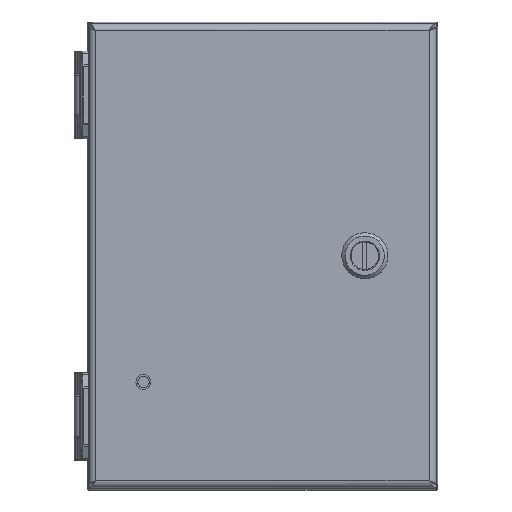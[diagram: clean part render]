
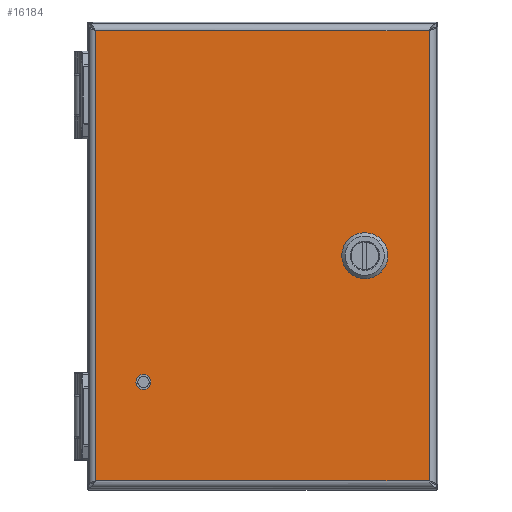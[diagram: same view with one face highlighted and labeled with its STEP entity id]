
A CAD part, top view. The second image highlights one B-rep face of the part: STEP entity #16184.
In plain terms, the highlighted planar face has unit normal (0, 0, 1).
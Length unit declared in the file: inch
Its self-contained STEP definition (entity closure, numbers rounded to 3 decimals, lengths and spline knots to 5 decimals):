
#14267=CARTESIAN_POINT('',(-2.035,-2.16,0.81));
#14268=DIRECTION('',(0.,0.,1.));
#14269=DIRECTION('',(-1.,0.,0.));
#14270=AXIS2_PLACEMENT_3D('',#14267,#14268,#14269);
#14275=CARTESIAN_POINT('',(-2.035,-2.16,0.81));
#14276=DIRECTION('',(0.,0.,1.));
#14277=DIRECTION('',(1.,0.,0.));
#14278=AXIS2_PLACEMENT_3D('',#14275,#14276,#14277);
#14283=DIRECTION('',(0.707,0.707,0.));
#14284=VECTOR('',#14283,0.30984);
#14285=CARTESIAN_POINT('',(1.44447,0.08845,0.81));
#14286=LINE('',#14285,#14284);
#14290=CARTESIAN_POINT('',(1.752,0.,0.81));
#14291=DIRECTION('',(0.,0.,1.));
#14292=DIRECTION('',(-0.961,0.276,0.));
#14293=AXIS2_PLACEMENT_3D('',#14290,#14291,#14292);
#14298=DIRECTION('',(-0.707,0.707,0.));
#14299=VECTOR('',#14298,0.30984);
#14300=CARTESIAN_POINT('',(1.66355,-0.30753,0.81));
#14301=LINE('',#14300,#14299);
#14305=CARTESIAN_POINT('',(1.752,0.,0.81));
#14306=DIRECTION('',(0.,0.,1.));
#14307=DIRECTION('',(-0.276,-0.961,0.));
#14308=AXIS2_PLACEMENT_3D('',#14305,#14306,#14307);
#14313=DIRECTION('',(-0.707,-0.707,0.));
#14314=VECTOR('',#14313,0.30984);
#14315=CARTESIAN_POINT('',(2.05953,-0.08845,0.81));
#14316=LINE('',#14315,#14314);
#14320=CARTESIAN_POINT('',(1.752,0.,0.81));
#14321=DIRECTION('',(0.,0.,1.));
#14322=DIRECTION('',(0.961,-0.276,0.));
#14323=AXIS2_PLACEMENT_3D('',#14320,#14321,#14322);
#14328=DIRECTION('',(0.707,-0.707,0.));
#14329=VECTOR('',#14328,0.30984);
#14330=CARTESIAN_POINT('',(1.84045,0.30753,0.81));
#14331=LINE('',#14330,#14329);
#14335=CARTESIAN_POINT('',(1.752,0.,0.81));
#14336=DIRECTION('',(0.,0.,1.));
#14337=DIRECTION('',(0.276,0.961,0.));
#14338=AXIS2_PLACEMENT_3D('',#14335,#14336,#14337);
#14343=DIRECTION('',(1.,0.,0.));
#14344=VECTOR('',#14343,5.7);
#14345=CARTESIAN_POINT('',(-2.85,-3.85,0.81));
#14346=LINE('',#14345,#14344);
#14441=DIRECTION('',(0.,1.,0.));
#14442=VECTOR('',#14441,7.7);
#14443=CARTESIAN_POINT('',(2.85,-3.85,0.81));
#14444=LINE('',#14443,#14442);
#14493=DIRECTION('',(-1.,0.,0.));
#14494=VECTOR('',#14493,5.7);
#14495=CARTESIAN_POINT('',(2.85,3.85,0.81));
#14496=LINE('',#14495,#14494);
#14598=DIRECTION('',(0.,-1.,0.));
#14599=VECTOR('',#14598,7.7);
#14600=CARTESIAN_POINT('',(-2.85,3.85,0.81));
#14601=LINE('',#14600,#14599);
#15913=CARTESIAN_POINT('',(-2.85,3.85,0.81));
#15914=CARTESIAN_POINT('',(-2.85,-3.85,0.81));
#15915=VERTEX_POINT('',#15913);
#15916=VERTEX_POINT('',#15914);
#15917=CARTESIAN_POINT('',(2.85,-3.85,0.81));
#15918=CARTESIAN_POINT('',(2.85,3.85,0.81));
#15919=VERTEX_POINT('',#15917);
#15920=VERTEX_POINT('',#15918);
#15985=CARTESIAN_POINT('',(-2.13305,-2.16,0.81));
#15986=CARTESIAN_POINT('',(-1.93695,-2.16,0.81));
#15987=VERTEX_POINT('',#15985);
#15988=VERTEX_POINT('',#15986);
#15993=CARTESIAN_POINT('',(1.44447,0.08845,0.81));
#15994=CARTESIAN_POINT('',(1.66355,0.30753,0.81));
#15995=VERTEX_POINT('',#15993);
#15996=VERTEX_POINT('',#15994);
#15997=CARTESIAN_POINT('',(1.84045,0.30753,0.81));
#15998=VERTEX_POINT('',#15997);
#15999=CARTESIAN_POINT('',(2.05953,0.08845,0.81));
#16000=VERTEX_POINT('',#15999);
#16001=CARTESIAN_POINT('',(2.05953,-0.08845,0.81));
#16002=VERTEX_POINT('',#16001);
#16003=CARTESIAN_POINT('',(1.84045,-0.30753,0.81));
#16004=VERTEX_POINT('',#16003);
#16005=CARTESIAN_POINT('',(1.66355,-0.30753,0.81));
#16006=VERTEX_POINT('',#16005);
#16007=CARTESIAN_POINT('',(1.44447,-0.08845,0.81));
#16008=VERTEX_POINT('',#16007);
#16145=CARTESIAN_POINT('',(0.,0.,0.81));
#16146=DIRECTION('',(0.,0.,1.));
#16147=DIRECTION('',(1.,0.,0.));
#16148=AXIS2_PLACEMENT_3D('',#16145,#16146,#16147);
#16149=PLANE('',#16148);
#16151=ORIENTED_EDGE('',*,*,#16150,.F.);
#16153=ORIENTED_EDGE('',*,*,#16152,.F.);
#16155=ORIENTED_EDGE('',*,*,#16154,.F.);
#16157=ORIENTED_EDGE('',*,*,#16156,.F.);
#16158=EDGE_LOOP('',(#16151,#16153,#16155,#16157));
#16159=FACE_OUTER_BOUND('',#16158,.F.);
#16161=ORIENTED_EDGE('',*,*,#16160,.T.);
#16163=ORIENTED_EDGE('',*,*,#16162,.T.);
#16164=EDGE_LOOP('',(#16161,#16163));
#16165=FACE_BOUND('',#16164,.F.);
#16167=ORIENTED_EDGE('',*,*,#16166,.F.);
#16169=ORIENTED_EDGE('',*,*,#16168,.T.);
#16171=ORIENTED_EDGE('',*,*,#16170,.F.);
#16173=ORIENTED_EDGE('',*,*,#16172,.T.);
#16175=ORIENTED_EDGE('',*,*,#16174,.F.);
#16177=ORIENTED_EDGE('',*,*,#16176,.T.);
#16179=ORIENTED_EDGE('',*,*,#16178,.F.);
#16181=ORIENTED_EDGE('',*,*,#16180,.T.);
#16182=EDGE_LOOP('',(#16167,#16169,#16171,#16173,#16175,#16177,#16179,#16181));
#16183=FACE_BOUND('',#16182,.F.);
#14271=CIRCLE('',#14270,0.09805);
#14279=CIRCLE('',#14278,0.09805);
#14294=CIRCLE('',#14293,0.32);
#14309=CIRCLE('',#14308,0.32);
#14324=CIRCLE('',#14323,0.32);
#14339=CIRCLE('',#14338,0.32);
#16150=EDGE_CURVE('',#15916,#15919,#14346,.T.);
#16152=EDGE_CURVE('',#15915,#15916,#14601,.T.);
#16154=EDGE_CURVE('',#15920,#15915,#14496,.T.);
#16156=EDGE_CURVE('',#15919,#15920,#14444,.T.);
#16160=EDGE_CURVE('',#15987,#15988,#14271,.T.);
#16162=EDGE_CURVE('',#15988,#15987,#14279,.T.);
#16166=EDGE_CURVE('',#15995,#15996,#14286,.T.);
#16168=EDGE_CURVE('',#15995,#16008,#14294,.T.);
#16170=EDGE_CURVE('',#16006,#16008,#14301,.T.);
#16172=EDGE_CURVE('',#16006,#16004,#14309,.T.);
#16174=EDGE_CURVE('',#16002,#16004,#14316,.T.);
#16176=EDGE_CURVE('',#16002,#16000,#14324,.T.);
#16178=EDGE_CURVE('',#15998,#16000,#14331,.T.);
#16180=EDGE_CURVE('',#15998,#15996,#14339,.T.);
#16184=ADVANCED_FACE('',(#16159,#16165,#16183),#16149,.T.);
